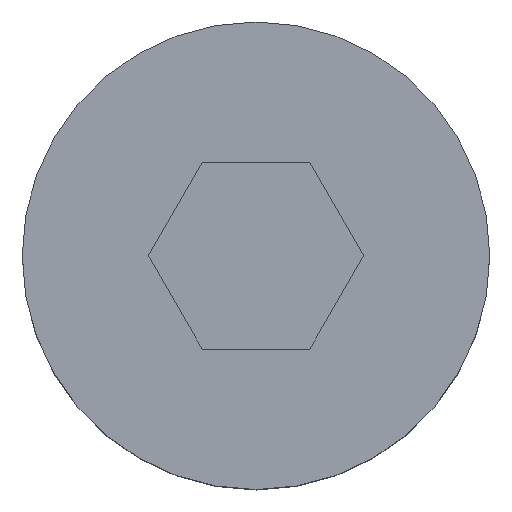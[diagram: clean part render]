
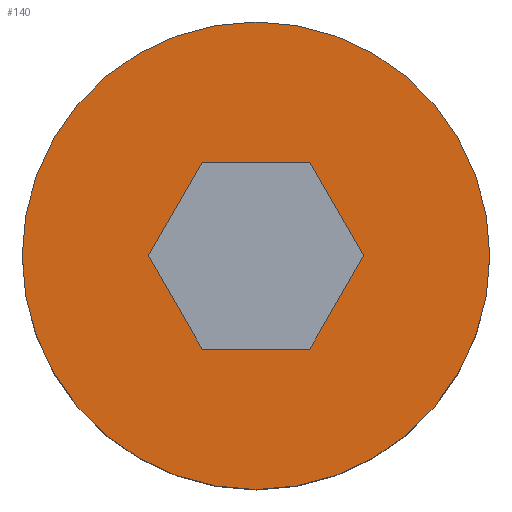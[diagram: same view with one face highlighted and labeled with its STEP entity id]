
A CAD part, top view. The second image highlights one B-rep face of the part: STEP entity #140.
In plain terms, the highlighted planar face has unit normal (0, 0, 1).
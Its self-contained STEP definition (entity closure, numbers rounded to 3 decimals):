
#24 = VERTEX_POINT('',#25);
#25 = CARTESIAN_POINT('',(82.844,-20.,18.));
#32 = CYLINDRICAL_SURFACE('',#33,1.9);
#33 = AXIS2_PLACEMENT_3D('',#34,#35,#36);
#34 = CARTESIAN_POINT('',(80.944,-20.,16.));
#35 = DIRECTION('',(-0.,-0.,-1.));
#36 = DIRECTION('',(1.,0.,0.));
#51 = EDGE_CURVE('',#24,#24,#52,.T.);
#52 = SURFACE_CURVE('',#53,(#58,#65),.PCURVE_S1.);
#53 = CIRCLE('',#54,1.9);
#54 = AXIS2_PLACEMENT_3D('',#55,#56,#57);
#55 = CARTESIAN_POINT('',(80.944,-20.,18.));
#56 = DIRECTION('',(0.,0.,1.));
#57 = DIRECTION('',(1.,0.,0.));
#58 = PCURVE('',#32,#59);
#59 = DEFINITIONAL_REPRESENTATION('',(#60),#64);
#60 = LINE('',#61,#62);
#61 = CARTESIAN_POINT('',(-0.,-2.));
#62 = VECTOR('',#63,1.);
#63 = DIRECTION('',(-1.,0.));
#64 = ( GEOMETRIC_REPRESENTATION_CONTEXT(2) 
PARAMETRIC_REPRESENTATION_CONTEXT() REPRESENTATION_CONTEXT('2D SPACE',''
  ) );
#65 = PCURVE('',#66,#71);
#66 = PLANE('',#67);
#67 = AXIS2_PLACEMENT_3D('',#68,#69,#70);
#68 = CARTESIAN_POINT('',(80.944,-20.,18.));
#69 = DIRECTION('',(0.,0.,1.));
#70 = DIRECTION('',(1.,0.,-0.));
#71 = DEFINITIONAL_REPRESENTATION('',(#72),#76);
#72 = CIRCLE('',#73,1.9);
#73 = AXIS2_PLACEMENT_2D('',#74,#75);
#74 = CARTESIAN_POINT('',(0.,0.));
#75 = DIRECTION('',(1.,0.));
#76 = ( GEOMETRIC_REPRESENTATION_CONTEXT(2) 
PARAMETRIC_REPRESENTATION_CONTEXT() REPRESENTATION_CONTEXT('2D SPACE',''
  ) );
#140 = ADVANCED_FACE('',(#141,#144),#66,.T.);
#141 = FACE_BOUND('',#142,.T.);
#142 = EDGE_LOOP('',(#143));
#143 = ORIENTED_EDGE('',*,*,#51,.T.);
#144 = FACE_BOUND('',#145,.T.);
#145 = EDGE_LOOP('',(#146,#174,#200,#226,#252,#278));
#146 = ORIENTED_EDGE('',*,*,#147,.T.);
#147 = EDGE_CURVE('',#148,#150,#152,.T.);
#148 = VERTEX_POINT('',#149);
#149 = CARTESIAN_POINT('',(80.507,-19.242,18.));
#150 = VERTEX_POINT('',#151);
#151 = CARTESIAN_POINT('',(81.382,-19.242,18.));
#152 = SURFACE_CURVE('',#153,(#157,#163),.PCURVE_S1.);
#153 = LINE('',#154,#155);
#154 = CARTESIAN_POINT('',(81.163,-19.242,18.));
#155 = VECTOR('',#156,1.);
#156 = DIRECTION('',(1.,0.,0.));
#157 = PCURVE('',#66,#158);
#158 = DEFINITIONAL_REPRESENTATION('',(#159),#162);
#159 = B_SPLINE_CURVE_WITH_KNOTS('',1,(#160,#161),.UNSPECIFIED.,.F.,.F.,
  (2,2),(-0.656,0.219),.PIECEWISE_BEZIER_KNOTS.);
#160 = CARTESIAN_POINT('',(-0.438,0.758));
#161 = CARTESIAN_POINT('',(0.438,0.758));
#162 = ( GEOMETRIC_REPRESENTATION_CONTEXT(2) 
PARAMETRIC_REPRESENTATION_CONTEXT() REPRESENTATION_CONTEXT('2D SPACE',''
  ) );
#163 = PCURVE('',#164,#169);
#164 = PLANE('',#165);
#165 = AXIS2_PLACEMENT_3D('',#166,#167,#168);
#166 = CARTESIAN_POINT('',(81.382,-19.242,17.));
#167 = DIRECTION('',(0.,-1.,0.));
#168 = DIRECTION('',(-1.,0.,0.));
#169 = DEFINITIONAL_REPRESENTATION('',(#170),#173);
#170 = B_SPLINE_CURVE_WITH_KNOTS('',1,(#171,#172),.UNSPECIFIED.,.F.,.F.,
  (2,2),(-0.656,0.219),.PIECEWISE_BEZIER_KNOTS.);
#171 = CARTESIAN_POINT('',(0.875,-1.));
#172 = CARTESIAN_POINT('',(0.,-1.));
#173 = ( GEOMETRIC_REPRESENTATION_CONTEXT(2) 
PARAMETRIC_REPRESENTATION_CONTEXT() REPRESENTATION_CONTEXT('2D SPACE',''
  ) );
#174 = ORIENTED_EDGE('',*,*,#175,.T.);
#175 = EDGE_CURVE('',#150,#176,#178,.T.);
#176 = VERTEX_POINT('',#177);
#177 = CARTESIAN_POINT('',(81.819,-20.,18.));
#178 = SURFACE_CURVE('',#179,(#183,#189),.PCURVE_S1.);
#179 = LINE('',#180,#181);
#180 = CARTESIAN_POINT('',(81.71,-19.811,18.));
#181 = VECTOR('',#182,1.);
#182 = DIRECTION('',(0.5,-0.866,0.));
#183 = PCURVE('',#66,#184);
#184 = DEFINITIONAL_REPRESENTATION('',(#185),#188);
#185 = B_SPLINE_CURVE_WITH_KNOTS('',1,(#186,#187),.UNSPECIFIED.,.F.,.F.,
  (2,2),(-0.656,0.219),.PIECEWISE_BEZIER_KNOTS.);
#186 = CARTESIAN_POINT('',(0.438,0.758));
#187 = CARTESIAN_POINT('',(0.875,0.));
#188 = ( GEOMETRIC_REPRESENTATION_CONTEXT(2) 
PARAMETRIC_REPRESENTATION_CONTEXT() REPRESENTATION_CONTEXT('2D SPACE',''
  ) );
#189 = PCURVE('',#190,#195);
#190 = PLANE('',#191);
#191 = AXIS2_PLACEMENT_3D('',#192,#193,#194);
#192 = CARTESIAN_POINT('',(81.819,-20.,17.));
#193 = DIRECTION('',(-0.866,-0.5,0.));
#194 = DIRECTION('',(-0.5,0.866,0.));
#195 = DEFINITIONAL_REPRESENTATION('',(#196),#199);
#196 = B_SPLINE_CURVE_WITH_KNOTS('',1,(#197,#198),.UNSPECIFIED.,.F.,.F.,
  (2,2),(-0.656,0.219),.PIECEWISE_BEZIER_KNOTS.);
#197 = CARTESIAN_POINT('',(0.875,-1.));
#198 = CARTESIAN_POINT('',(0.,-1.));
#199 = ( GEOMETRIC_REPRESENTATION_CONTEXT(2) 
PARAMETRIC_REPRESENTATION_CONTEXT() REPRESENTATION_CONTEXT('2D SPACE',''
  ) );
#200 = ORIENTED_EDGE('',*,*,#201,.T.);
#201 = EDGE_CURVE('',#176,#202,#204,.T.);
#202 = VERTEX_POINT('',#203);
#203 = CARTESIAN_POINT('',(81.382,-20.758,18.));
#204 = SURFACE_CURVE('',#205,(#209,#215),.PCURVE_S1.);
#205 = LINE('',#206,#207);
#206 = CARTESIAN_POINT('',(81.491,-20.568,18.));
#207 = VECTOR('',#208,1.);
#208 = DIRECTION('',(-0.5,-0.866,0.));
#209 = PCURVE('',#66,#210);
#210 = DEFINITIONAL_REPRESENTATION('',(#211),#214);
#211 = B_SPLINE_CURVE_WITH_KNOTS('',1,(#212,#213),.UNSPECIFIED.,.F.,.F.,
  (2,2),(-0.656,0.219),.PIECEWISE_BEZIER_KNOTS.);
#212 = CARTESIAN_POINT('',(0.875,0.));
#213 = CARTESIAN_POINT('',(0.438,-0.758));
#214 = ( GEOMETRIC_REPRESENTATION_CONTEXT(2) 
PARAMETRIC_REPRESENTATION_CONTEXT() REPRESENTATION_CONTEXT('2D SPACE',''
  ) );
#215 = PCURVE('',#216,#221);
#216 = PLANE('',#217);
#217 = AXIS2_PLACEMENT_3D('',#218,#219,#220);
#218 = CARTESIAN_POINT('',(81.382,-20.758,17.));
#219 = DIRECTION('',(-0.866,0.5,0.));
#220 = DIRECTION('',(0.5,0.866,0.));
#221 = DEFINITIONAL_REPRESENTATION('',(#222),#225);
#222 = B_SPLINE_CURVE_WITH_KNOTS('',1,(#223,#224),.UNSPECIFIED.,.F.,.F.,
  (2,2),(-0.656,0.219),.PIECEWISE_BEZIER_KNOTS.);
#223 = CARTESIAN_POINT('',(0.875,-1.));
#224 = CARTESIAN_POINT('',(0.,-1.));
#225 = ( GEOMETRIC_REPRESENTATION_CONTEXT(2) 
PARAMETRIC_REPRESENTATION_CONTEXT() REPRESENTATION_CONTEXT('2D SPACE',''
  ) );
#226 = ORIENTED_EDGE('',*,*,#227,.T.);
#227 = EDGE_CURVE('',#202,#228,#230,.T.);
#228 = VERTEX_POINT('',#229);
#229 = CARTESIAN_POINT('',(80.507,-20.758,18.));
#230 = SURFACE_CURVE('',#231,(#235,#241),.PCURVE_S1.);
#231 = LINE('',#232,#233);
#232 = CARTESIAN_POINT('',(80.725,-20.758,18.));
#233 = VECTOR('',#234,1.);
#234 = DIRECTION('',(-1.,0.,0.));
#235 = PCURVE('',#66,#236);
#236 = DEFINITIONAL_REPRESENTATION('',(#237),#240);
#237 = B_SPLINE_CURVE_WITH_KNOTS('',1,(#238,#239),.UNSPECIFIED.,.F.,.F.,
  (2,2),(-0.656,0.219),.PIECEWISE_BEZIER_KNOTS.);
#238 = CARTESIAN_POINT('',(0.438,-0.758));
#239 = CARTESIAN_POINT('',(-0.438,-0.758));
#240 = ( GEOMETRIC_REPRESENTATION_CONTEXT(2) 
PARAMETRIC_REPRESENTATION_CONTEXT() REPRESENTATION_CONTEXT('2D SPACE',''
  ) );
#241 = PCURVE('',#242,#247);
#242 = PLANE('',#243);
#243 = AXIS2_PLACEMENT_3D('',#244,#245,#246);
#244 = CARTESIAN_POINT('',(80.507,-20.758,17.));
#245 = DIRECTION('',(0.,1.,-0.));
#246 = DIRECTION('',(1.,0.,0.));
#247 = DEFINITIONAL_REPRESENTATION('',(#248),#251);
#248 = B_SPLINE_CURVE_WITH_KNOTS('',1,(#249,#250),.UNSPECIFIED.,.F.,.F.,
  (2,2),(-0.656,0.219),.PIECEWISE_BEZIER_KNOTS.);
#249 = CARTESIAN_POINT('',(0.875,-1.));
#250 = CARTESIAN_POINT('',(0.,-1.));
#251 = ( GEOMETRIC_REPRESENTATION_CONTEXT(2) 
PARAMETRIC_REPRESENTATION_CONTEXT() REPRESENTATION_CONTEXT('2D SPACE',''
  ) );
#252 = ORIENTED_EDGE('',*,*,#253,.T.);
#253 = EDGE_CURVE('',#228,#254,#256,.T.);
#254 = VERTEX_POINT('',#255);
#255 = CARTESIAN_POINT('',(80.069,-20.,18.));
#256 = SURFACE_CURVE('',#257,(#261,#267),.PCURVE_S1.);
#257 = LINE('',#258,#259);
#258 = CARTESIAN_POINT('',(80.178,-20.189,18.));
#259 = VECTOR('',#260,1.);
#260 = DIRECTION('',(-0.5,0.866,0.));
#261 = PCURVE('',#66,#262);
#262 = DEFINITIONAL_REPRESENTATION('',(#263),#266);
#263 = B_SPLINE_CURVE_WITH_KNOTS('',1,(#264,#265),.UNSPECIFIED.,.F.,.F.,
  (2,2),(-0.656,0.219),.PIECEWISE_BEZIER_KNOTS.);
#264 = CARTESIAN_POINT('',(-0.438,-0.758));
#265 = CARTESIAN_POINT('',(-0.875,0.));
#266 = ( GEOMETRIC_REPRESENTATION_CONTEXT(2) 
PARAMETRIC_REPRESENTATION_CONTEXT() REPRESENTATION_CONTEXT('2D SPACE',''
  ) );
#267 = PCURVE('',#268,#273);
#268 = PLANE('',#269);
#269 = AXIS2_PLACEMENT_3D('',#270,#271,#272);
#270 = CARTESIAN_POINT('',(80.069,-20.,17.));
#271 = DIRECTION('',(0.866,0.5,-0.));
#272 = DIRECTION('',(0.5,-0.866,0.));
#273 = DEFINITIONAL_REPRESENTATION('',(#274),#277);
#274 = B_SPLINE_CURVE_WITH_KNOTS('',1,(#275,#276),.UNSPECIFIED.,.F.,.F.,
  (2,2),(-0.656,0.219),.PIECEWISE_BEZIER_KNOTS.);
#275 = CARTESIAN_POINT('',(0.875,-1.));
#276 = CARTESIAN_POINT('',(0.,-1.));
#277 = ( GEOMETRIC_REPRESENTATION_CONTEXT(2) 
PARAMETRIC_REPRESENTATION_CONTEXT() REPRESENTATION_CONTEXT('2D SPACE',''
  ) );
#278 = ORIENTED_EDGE('',*,*,#279,.T.);
#279 = EDGE_CURVE('',#254,#148,#280,.T.);
#280 = SURFACE_CURVE('',#281,(#285,#291),.PCURVE_S1.);
#281 = LINE('',#282,#283);
#282 = CARTESIAN_POINT('',(80.397,-19.432,18.));
#283 = VECTOR('',#284,1.);
#284 = DIRECTION('',(0.5,0.866,-0.));
#285 = PCURVE('',#66,#286);
#286 = DEFINITIONAL_REPRESENTATION('',(#287),#290);
#287 = B_SPLINE_CURVE_WITH_KNOTS('',1,(#288,#289),.UNSPECIFIED.,.F.,.F.,
  (2,2),(-0.656,0.219),.PIECEWISE_BEZIER_KNOTS.);
#288 = CARTESIAN_POINT('',(-0.875,0.));
#289 = CARTESIAN_POINT('',(-0.438,0.758));
#290 = ( GEOMETRIC_REPRESENTATION_CONTEXT(2) 
PARAMETRIC_REPRESENTATION_CONTEXT() REPRESENTATION_CONTEXT('2D SPACE',''
  ) );
#291 = PCURVE('',#292,#297);
#292 = PLANE('',#293);
#293 = AXIS2_PLACEMENT_3D('',#294,#295,#296);
#294 = CARTESIAN_POINT('',(80.507,-19.242,17.));
#295 = DIRECTION('',(0.866,-0.5,0.));
#296 = DIRECTION('',(-0.5,-0.866,0.));
#297 = DEFINITIONAL_REPRESENTATION('',(#298),#301);
#298 = B_SPLINE_CURVE_WITH_KNOTS('',1,(#299,#300),.UNSPECIFIED.,.F.,.F.,
  (2,2),(-0.656,0.219),.PIECEWISE_BEZIER_KNOTS.);
#299 = CARTESIAN_POINT('',(0.875,-1.));
#300 = CARTESIAN_POINT('',(0.,-1.));
#301 = ( GEOMETRIC_REPRESENTATION_CONTEXT(2) 
PARAMETRIC_REPRESENTATION_CONTEXT() REPRESENTATION_CONTEXT('2D SPACE',''
  ) );
